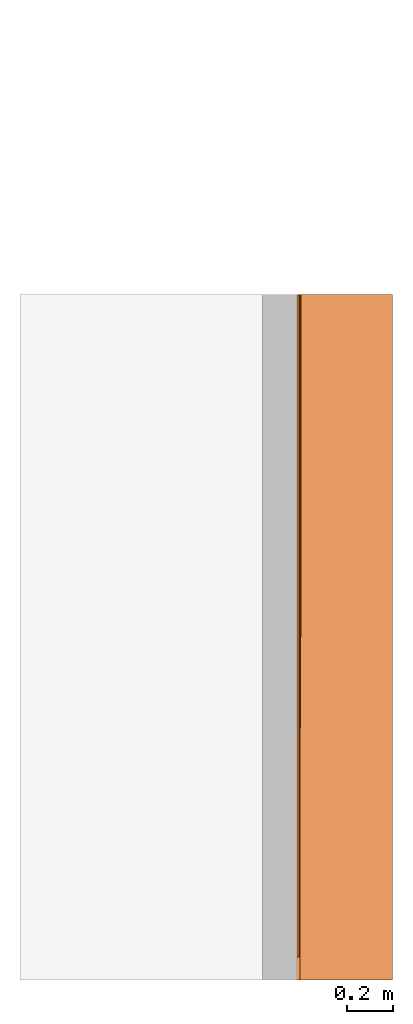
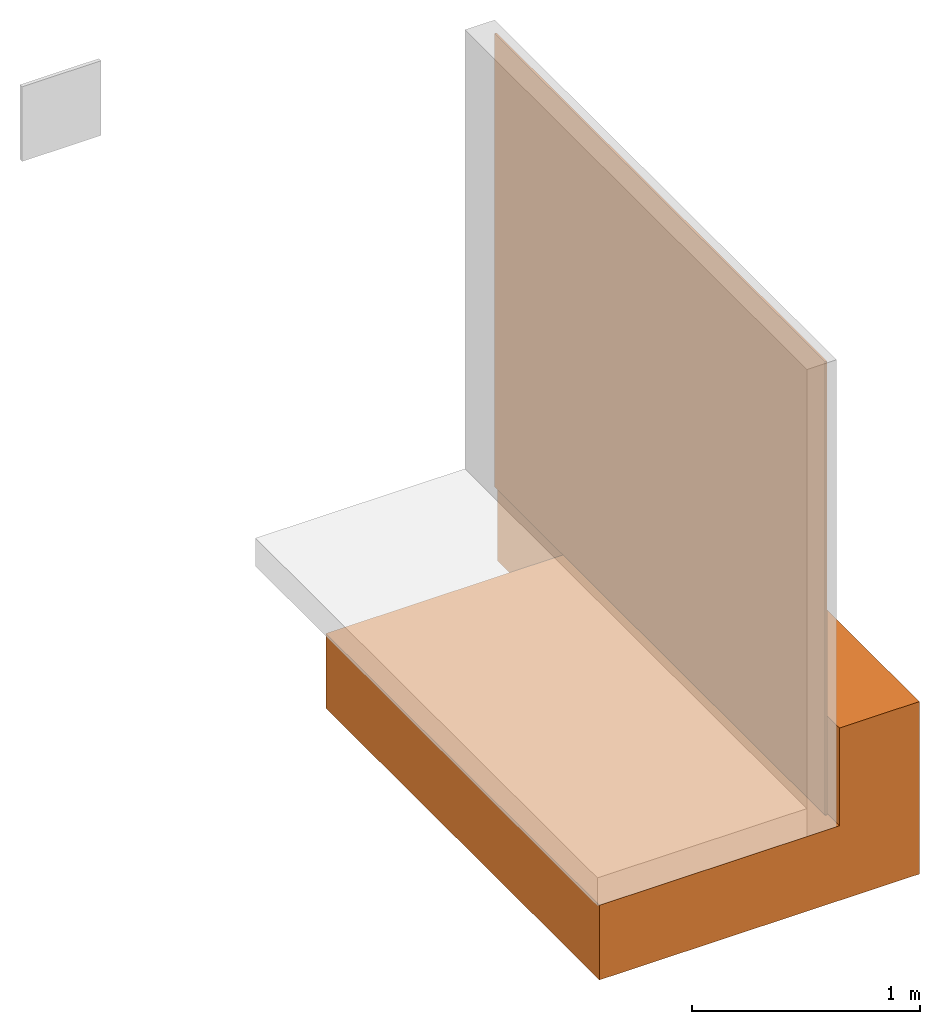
# One storey, part 2 of 2: 1 proxy.
"""IFC2X3 building model written with IfcOpenShell, lengths in metres."""

from ifc_helpers import new_model, entity, si_unit, converted_unit, derived_unit, direction, frame, frame_2d, origin, origin_2d_with_axis, place, context, subcontext, project, spatial, polyline, circle_curve, parameter, trimmed, segment, composite_curve, rectangle, outline, extrude, source, transform, mapped, material, material_list, type_object, type_shapes, element, save


model = new_model("IFC2X3")

# Units and contexts
model_context = context("Model", 3, precision=1e-05, world=origin(), true_north=direction((6.123031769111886e-17, 1.0)))
body_context = subcontext(model_context, "Body", "Model", "MODEL_VIEW")
ifc_project = project(units=[si_unit("LENGTHUNIT", "METRE"), si_unit("AREAUNIT", "SQUARE_METRE"), si_unit("VOLUMEUNIT", "CUBIC_METRE"), converted_unit("PLANEANGLEUNIT", "DEGREE", entity("IfcRatioMeasure", 0.017453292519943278), si_unit("PLANEANGLEUNIT", "RADIAN"), dimensions=[0, 0, 0, 0, 0, 0, 0]), si_unit("MASSUNIT", "GRAM", prefix="KILO"), derived_unit("MASSDENSITYUNIT", [(si_unit("MASSUNIT", "GRAM", prefix="KILO"), 1), (si_unit("LENGTHUNIT", "METRE"), -3)]), derived_unit("IONCONCENTRATIONUNIT", [(si_unit("MASSUNIT", "GRAM", prefix="KILO"), 1), (si_unit("LENGTHUNIT", "METRE"), -3)]), derived_unit("MOMENTOFINERTIAUNIT", [(si_unit("LENGTHUNIT", "METRE"), 4)]), si_unit("TIMEUNIT", "SECOND"), si_unit("FREQUENCYUNIT", "HERTZ"), si_unit("THERMODYNAMICTEMPERATUREUNIT", "DEGREE_CELSIUS"), derived_unit("THERMALTRANSMITTANCEUNIT", [(si_unit("MASSUNIT", "GRAM", prefix="KILO"), 1), (si_unit("THERMODYNAMICTEMPERATUREUNIT", "KELVIN"), -1), (si_unit("TIMEUNIT", "SECOND"), -3)]), derived_unit("THERMALCONDUCTANCEUNIT", [(si_unit("MASSUNIT", "GRAM", prefix="KILO"), 1), (si_unit("THERMODYNAMICTEMPERATUREUNIT", "KELVIN"), -1), (si_unit("TIMEUNIT", "SECOND"), -3), (si_unit("LENGTHUNIT", "METRE"), 1)]), derived_unit("VOLUMETRICFLOWRATEUNIT", [(si_unit("LENGTHUNIT", "METRE"), 3), (si_unit("TIMEUNIT", "SECOND"), -1)]), derived_unit("MASSFLOWRATEUNIT", [(si_unit("MASSUNIT", "GRAM", prefix="KILO"), 1), (si_unit("TIMEUNIT", "SECOND"), -1)]), derived_unit("ROTATIONALFREQUENCYUNIT", [(si_unit("TIMEUNIT", "SECOND"), -1)]), si_unit("ELECTRICCURRENTUNIT", "AMPERE"), si_unit("ELECTRICVOLTAGEUNIT", "VOLT"), si_unit("POWERUNIT", "WATT"), si_unit("FORCEUNIT", "NEWTON", prefix="KILO"), si_unit("ILLUMINANCEUNIT", "LUX"), si_unit("LUMINOUSFLUXUNIT", "LUMEN"), si_unit("LUMINOUSINTENSITYUNIT", "CANDELA"), derived_unit("USERDEFINED", [(si_unit("MASSUNIT", "GRAM", prefix="KILO"), -1), (si_unit("LENGTHUNIT", "METRE"), -2), (si_unit("TIMEUNIT", "SECOND"), 3), (si_unit("LUMINOUSFLUXUNIT", "LUMEN"), 1)]), derived_unit("USERDEFINED", [(si_unit("MASSUNIT", "GRAM", prefix="KILO"), 1), (si_unit("TIMEUNIT", "SECOND"), -3), (si_unit("LENGTHUNIT", "METRE"), 3), (si_unit("ELECTRICCURRENTUNIT", "AMPERE"), -2)]), derived_unit("SOUNDPOWERUNIT", [(si_unit("MASSUNIT", "GRAM", prefix="KILO"), 1), (si_unit("TIMEUNIT", "SECOND"), -3), (si_unit("LENGTHUNIT", "METRE"), 2)]), derived_unit("SOUNDPRESSUREUNIT", [(si_unit("MASSUNIT", "GRAM", prefix="KILO"), 1), (si_unit("LENGTHUNIT", "METRE"), -1), (si_unit("TIMEUNIT", "SECOND"), -2)]), derived_unit("LINEARVELOCITYUNIT", [(si_unit("LENGTHUNIT", "METRE"), 1), (si_unit("TIMEUNIT", "SECOND"), -1)]), si_unit("PRESSUREUNIT", "PASCAL"), derived_unit("USERDEFINED", [(si_unit("MASSUNIT", "GRAM", prefix="KILO"), 1), (si_unit("LENGTHUNIT", "METRE"), -2), (si_unit("TIMEUNIT", "SECOND"), -2)]), derived_unit("LINEARFORCEUNIT", [(si_unit("MASSUNIT", "GRAM", prefix="KILO"), 1), (si_unit("TIMEUNIT", "SECOND"), -2)]), derived_unit("PLANARFORCEUNIT", [(si_unit("MASSUNIT", "GRAM", prefix="KILO"), 1), (si_unit("LENGTHUNIT", "METRE"), -1), (si_unit("TIMEUNIT", "SECOND"), -2)]), derived_unit("SPECIFICHEATCAPACITYUNIT", [(si_unit("THERMODYNAMICTEMPERATUREUNIT", "KELVIN"), -1), (si_unit("LENGTHUNIT", "METRE"), 2), (si_unit("TIMEUNIT", "SECOND"), -2)]), derived_unit("HEATINGVALUEUNIT", [(si_unit("LENGTHUNIT", "METRE"), 2), (si_unit("TIMEUNIT", "SECOND"), -2)]), derived_unit("VAPORPERMEABILITYUNIT", [(si_unit("LENGTHUNIT", "METRE"), -1), (si_unit("TIMEUNIT", "SECOND"), 1)]), derived_unit("DYNAMICVISCOSITYUNIT", [(si_unit("MASSUNIT", "GRAM", prefix="KILO"), 1), (si_unit("TIMEUNIT", "SECOND"), -1), (si_unit("LENGTHUNIT", "METRE"), -1)]), derived_unit("THERMALEXPANSIONCOEFFICIENTUNIT", [(si_unit("THERMODYNAMICTEMPERATUREUNIT", "KELVIN"), -1)]), derived_unit("MODULUSOFELASTICITYUNIT", [(si_unit("MASSUNIT", "GRAM", prefix="KILO"), 1), (si_unit("LENGTHUNIT", "METRE"), -1), (si_unit("TIMEUNIT", "SECOND"), -2)]), derived_unit("ISOTHERMALMOISTURECAPACITYUNIT", [(si_unit("LENGTHUNIT", "METRE"), 3), (si_unit("MASSUNIT", "GRAM", prefix="KILO"), -1)]), derived_unit("MOISTUREDIFFUSIVITYUNIT", [(si_unit("TIMEUNIT", "SECOND"), -1), (si_unit("LENGTHUNIT", "METRE"), 2)])], contexts=[model_context])

# Site, building, storey
site_placement = place(None, origin())
site = spatial("IfcSite", under=ifc_project, at=site_placement, Name="Default", CompositionType="ELEMENT")
building_placement = place(site_placement, origin())
building = spatial("IfcBuilding", under=site, at=building_placement, CompositionType="ELEMENT")
storey_placement = place(building_placement, frame((0.0, 0.0, -0.0025237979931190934)))
storey = spatial("IfcBuildingStorey", under=building, at=storey_placement, Name="ARQ Térreo", CompositionType="ELEMENT", Elevation=-0.0025237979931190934)

# Proxy
ifc_material_1 = material(Name="#argamassa")
ifc_material_2 = material(Name="#solo")
ifc_material_3 = material(Name="#Geotextil")
ifc_material_4 = material(Name="#Primer")
ifc_material_5 = material(Name="#Premium Geotextil Poliéster")
ifc_material_6 = material(Name="#Chapisco")
ifc_material_list = material_list([ifc_material_1, ifc_material_2, ifc_material_3, ifc_material_4, ifc_material_5, ifc_material_6])
building_element_proxy_type = type_object("IfcBuildingElementProxyType", Name="IMPER:IMPER", PredefinedType="NOTDEFINED", material=ifc_material_list)
shared_shape = source(origin(), body_context, "Body", "SweptSolid", [
    extrude(rectangle(XDim=2.899430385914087, YDim=0.010000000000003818, at=origin_2d_with_axis()), frame((-0.3469704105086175, -1.303845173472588, -0.002523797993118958), z_axis=(0.0, 0.0, 1.0), x_axis=(0.0, -1.0, 0.0)), (0.0, 0.0, 1.0), 2.428317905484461),
    extrude(rectangle(XDim=2.4, YDim=1.2158489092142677, at=frame_2d((1.1102230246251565e-16, 0.0), x_axis=(1.0, 0.0))), frame((-0.9448559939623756, -1.654129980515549, -0.4025237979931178), z_axis=(0.0, 0.0, 1.0), x_axis=(0.0, 1.0, 0.0)), (0.0, 0.0, 1.0), 0.4000000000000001),
    extrude(rectangle(XDim=2.999999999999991, YDim=0.4039724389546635, at=frame_2d((-1.1102230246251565e-16, 0.0), x_axis=(1.0, 0.0))), frame((-0.1349453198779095, -1.3541299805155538, -0.4025237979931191), z_axis=(0.0, 0.0, 1.0), x_axis=(0.0, 1.0, 0.0)), (0.0, 0.0, 1.0), 0.9233418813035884),
    extrude(outline(composite_curve([segment(polyline([(-0.008387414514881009, -0.8529182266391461), (-0.005387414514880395, -0.8529182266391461)]), True, "CONTINUOUS"), segment(polyline([(-0.005387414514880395, -0.8529182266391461), (-0.005387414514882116, 0.21322955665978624)]), True, "CONTINUOUS"), segment(trimmed(circle_curve(frame_2d((0.0016125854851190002, 0.21322955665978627), x_axis=(1.0, 0.0)), 0.007000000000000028), [parameter(3.053332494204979e-13)], [parameter(180.00000000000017)], True, "PARAMETER"), False, "CONTINUOUS"), segment(trimmed(circle_curve(frame_2d((0.005091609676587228, 0.21322955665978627), x_axis=(1.0, 0.0)), 0.0035209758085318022), [parameter(179.99999999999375)], [parameter(8.651108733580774e-13)], True, "PARAMETER"), False, "CONTINUOUS"), segment(trimmed(circle_curve(frame_2d((0.0018311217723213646, 0.21322955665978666), x_axis=(1.0, 0.0)), 0.00026048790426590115), [parameter(359.9999999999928)], [parameter(180.00000000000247)], True, "PARAMETER"), False, "CONTINUOUS"), segment(polyline([(0.002091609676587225, 0.21322955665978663), (0.005091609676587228, 0.21322955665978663)]), True, "CONTINUOUS"), segment(trimmed(circle_curve(frame_2d((0.0018311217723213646, 0.21322955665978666), x_axis=(1.0, 0.0)), 0.003260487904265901), [parameter(359.99999999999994)], [parameter(179.99999999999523)], True, "PARAMETER"), True, "CONTINUOUS"), segment(trimmed(circle_curve(frame_2d((0.005091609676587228, 0.21322955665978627), x_axis=(1.0, 0.0)), 0.006520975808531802), [parameter(179.9999999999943)], [parameter(1.0177774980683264e-12)], True, "PARAMETER"), True, "CONTINUOUS"), segment(trimmed(circle_curve(frame_2d((0.0016125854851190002, 0.21322955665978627), x_axis=(1.0, 0.0)), 0.010000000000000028), [parameter(7.124442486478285e-13)], [parameter(179.99999999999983)], True, "PARAMETER"), True, "CONTINUOUS"), segment(polyline([(-0.008387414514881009, 0.21322955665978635), (-0.008387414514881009, -0.8529182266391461)]), True, "CONTINUOUS")], self_intersect=False)), frame((-0.32757168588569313, -1.3541299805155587, 0.21070575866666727), z_axis=(0.0, 1.0, 0.0), x_axis=(1.0, 0.0, 0.0)), (0.0, 0.0, 1.0), 1.5000000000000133),
    extrude(rectangle(XDim=0.0010388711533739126, YDim=2.700000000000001, at=frame_2d((-3.3881317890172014e-17, 3.3306690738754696e-16), x_axis=(1.0, 0.0))), frame((-0.34145097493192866, -1.2041299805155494, -0.002523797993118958), z_axis=(0.0, 0.0, 1.0), x_axis=(-1.0, 0.0, 0.0)), (0.0, 0.0, 1.0), 2.2106503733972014),
    extrude(rectangle(XDim=0.003999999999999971, YDim=2.4000000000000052, at=frame_2d((-3.382710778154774e-17, 0.0), x_axis=(1.0, 0.0))), frame((-0.33893153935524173, -1.054129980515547, -0.002523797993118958), z_axis=(0.0, 0.0, 1.0), x_axis=(-1.0, 0.0, 0.0)), (0.0, 0.0, 1.0), 1.965708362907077),
    extrude(rectangle(XDim=0.0009724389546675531, YDim=1.9000000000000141, at=frame_2d((-3.382710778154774e-17, 0.0), x_axis=(1.0, 0.0))), frame((-0.33644531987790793, -0.8041299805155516, -0.002523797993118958), z_axis=(0.0, 0.0, 1.0), x_axis=(-1.0, 0.0, 0.0)), (0.0, 0.0, 1.0), 1.548152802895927),
])
type_shapes(building_element_proxy_type, [shared_shape])
proxy_placement = place(storey_placement, frame((0.0, 0.0, 0.0025237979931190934)))
element("IfcBuildingElementProxy", 1, at=proxy_placement, inside=storey, type_object=building_element_proxy_type, material=ifc_material_list, Name="IMPER:IMPER:IMPER : IMPER:IMPER", ObjectType="IMPER:IMPER:IMPER : IMPER:IMPER", context=body_context, shape_type="MappedRepresentation", body=[
    mapped(shared_shape, transform((0.0, 0.0, 0.0), scale=1.0)),
])

save(model, "model.ifc")
